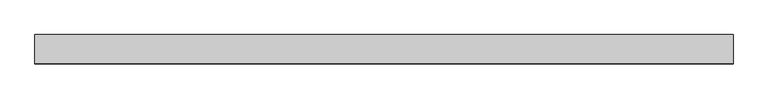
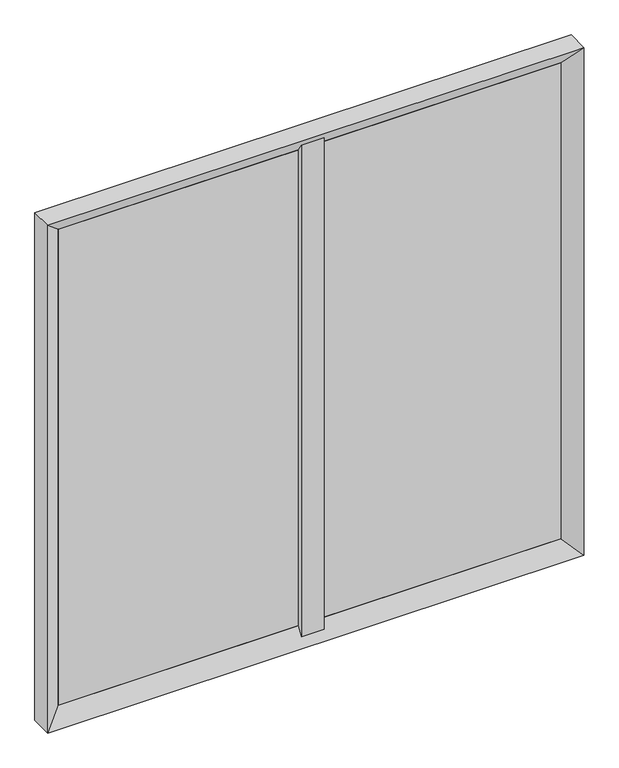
"""IFC4 building model written with IfcOpenShell, lengths in millimetres: proxy geometry, F3065 - WhiteboardBulletin Board Combination : F3065 - Whiteboard/Bulletin Board, Combination."""

from ifc_helpers import new_model, si_unit, frame, origin, place, context, project, spatial, polyline, outline, extrude, faceted_brep, source, transform, mapped, element, save


def specialty_equipment_1bbaf200(model_context):
    return source(origin(), model_context, "Body", "SolidModel", [
        extrude(outline(polyline([(25.4, 38.1), (12.7, 19.05), (12.7, 1200.15), (25.4, 1181.1), (25.4, 38.1)])), frame((584.2, 0.0, 0.0), z_axis=(1.0, 0.0, 0.0), x_axis=(0.0, 1.0, 0.0)), (0.0, 0.0, 1.0), 50.8),
        extrude(outline(polyline([(609.6, 50.8), (1181.1, 50.8), (1181.1, 25.4), (609.6, 25.4), (609.6, 50.8)])), frame((0.0, 0.0, 38.1), z_axis=(0.0, 0.0, 1.0), x_axis=(1.0, 0.0, 0.0)), (0.0, 0.0, 1.0), 1143.0),
        extrude(outline(polyline([(38.1, 50.8), (609.6, 50.8), (609.6, 25.4), (38.1, 25.4), (38.1, 50.8)])), frame((0.0, 0.0, 38.1), z_axis=(0.0, 0.0, 1.0), x_axis=(1.0, 0.0, 0.0)), (0.0, 0.0, 1.0), 1143.0),
        faceted_brep([(0.0, 50.8, 0.0), (0.0, 0.0, 0.0), (0.0, 0.0, 1219.2), (0.0, 50.8, 1219.2), (38.1, 25.4, 38.1), (38.1, 50.8, 38.1), (38.1, 50.8, 1181.1), (38.1, 25.4, 1181.1), (1219.2, 0.0, 1219.2), (1219.2, 50.8, 1219.2), (1181.1, 50.8, 1181.1), (1181.1, 25.4, 1181.1), (1219.2, 0.0, 0.0), (1219.2, 50.8, 0.0), (1181.1, 50.8, 38.1), (1181.1, 25.4, 38.1)], [[[0, 1, 2, 3]], [[4, 5, 6, 7]], [[1, 4, 7, 2]], [[3, 2, 8, 9]], [[7, 6, 10, 11]], [[2, 7, 11, 8]], [[9, 8, 12, 13]], [[11, 10, 14, 15]], [[8, 11, 15, 12]], [[13, 12, 1, 0]], [[3, 9, 13, 0], [5, 14, 10, 6]], [[15, 14, 5, 4]], [[12, 15, 4, 1]]]),
    ])


if __name__ == "__main__":
    model = new_model("IFC4")
    model_context = context("Model", 3, world=origin())
    ifc_project = project(units=[si_unit("LENGTHUNIT", "METRE", prefix="MILLI")], contexts=[model_context])
    site = spatial("IfcSite", under=ifc_project)
    building = spatial("IfcBuilding", under=site)
    placement = place(None, origin())
    specialty_equipment_shape = specialty_equipment_1bbaf200(model_context)
    element("IfcBuildingElementProxy", 1, Name="F3065 - WhiteboardBulletin Board Combination : F3065 - Whiteboard/Bulletin Board, Combination", ObjectType="F3065 - WhiteboardBulletin Board Combination : F3065 - Whiteboard/Bulletin Board, Combination", at=placement, inside=building, context=model_context, shape_type="MappedRepresentation", body=[
        mapped(specialty_equipment_shape, transform((0.0, 0.0, 0.0), x_axis=(1.0, 0.0, 0.0), y_axis=(0.0, 1.0, 0.0), z_axis=(0.0, 0.0, 1.0))),
    ])
    save(model, "model.ifc")
